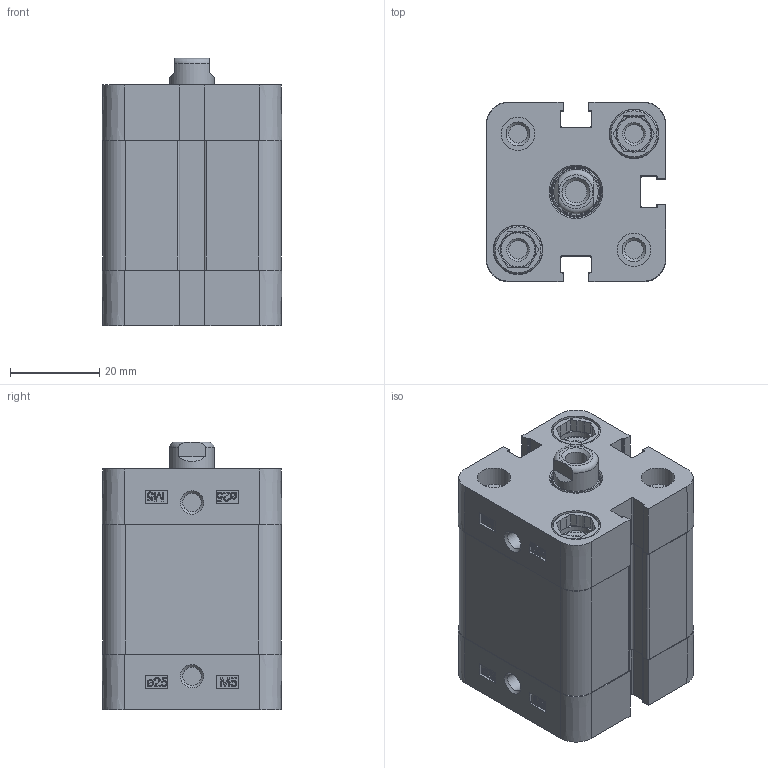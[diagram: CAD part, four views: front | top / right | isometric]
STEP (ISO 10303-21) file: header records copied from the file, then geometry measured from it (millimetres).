
FILE_DESCRIPTION(/* description */ ('Unknown'),/* implementation_level */ '2;1');
FILE_NAME(/* name */ 'ZIN 25_15',/* time_stamp */ '2025-01-24T12:21:52+01:00',/* author */ ('Unknown'),/* organization */ ('HAFNER Pneumatika Kft'),/* preprocessor_version */ 'ST-DEVELOPER v16.7',/* originating_system */ 'Solid Edge',/* authorisation */ 'Unknown');
FILE_SCHEMA (('AUTOMOTIVE_DESIGN {1 0 10303 214 3 1 1}'));
Length unit declared in the file: millimetre
Products named in the file (5): ZIN 25_15; Kit_1; Kit_2; Profilrohr; Kolbenstange
Assembly tree (4 placements, depth 2):
  ZIN 25_15
    Kit_1
    Kit_2
    Profilrohr
    Kolbenstange
Bounding box: 40.3 x 40.3 x 60 mm (x, y, z)
Volume: 70916.9 mm3; surface area: 28924.7 mm2
Topology: 4 solids, 10 shells, 583 faces, 1551 edges, 1026 vertices
Faces by surface type: plane 298, cylinder 141, bspline 84, cone 44, torus 16
Full cylindrical faces by diameter (mm): 4.134 x10, 4.917 x2, 7.5 x4, 8 x8, 9 x1, 10 x1, 10.48 x1, 10.9 x4, 11.1 x4, 11.4 x1, 12 x1, 13.84 x1, 14 x1, 25 x2
Entity records: 21648 total; most frequent: CARTESIAN_POINT 4139, ORIENTED_EDGE 2860, DIRECTION 2612, EDGE_CURVE 1430, VERTEX_POINT 995, LINE 880, VECTOR 880, AXIS2_PLACEMENT_3D 866
